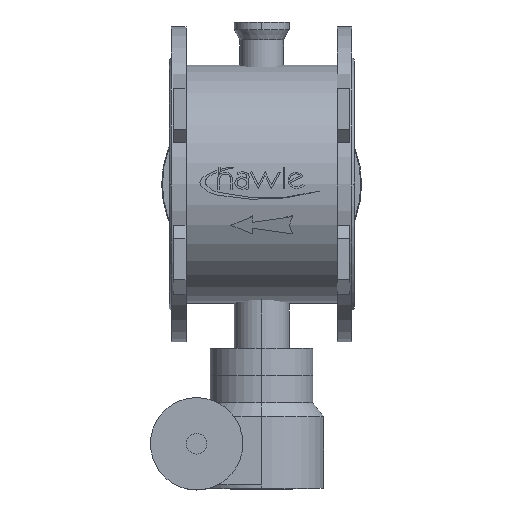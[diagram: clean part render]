
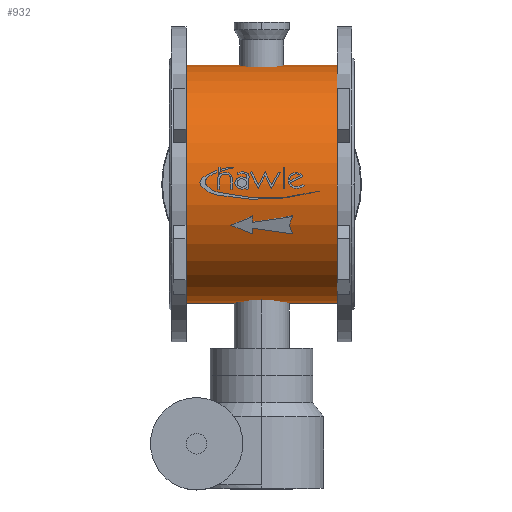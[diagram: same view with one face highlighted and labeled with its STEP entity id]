
A CAD part, top view. The second image highlights one B-rep face of the part: STEP entity #932.
In plain terms, the highlighted cylindrical face has radius 174 mm (diameter 348 mm), a partial arc.
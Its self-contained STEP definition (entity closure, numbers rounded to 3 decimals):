
#932=ADVANCED_FACE('',(#1972),#1973,.T.);
#1972=FACE_OUTER_BOUND('',#3479,.T.);
#1973=CYLINDRICAL_SURFACE('',#3480,174.0);
#3479=EDGE_LOOP('',(#4941,#4942,#4943,#4944));
#3480=AXIS2_PLACEMENT_3D('',#4945,#4946,#4947);
#4941=ORIENTED_EDGE('',*,*,#7961,.T.);
#4942=ORIENTED_EDGE('',*,*,#7962,.T.);
#4943=ORIENTED_EDGE('',*,*,#7963,.T.);
#4944=ORIENTED_EDGE('',*,*,#7964,.T.);
#4945=CARTESIAN_POINT('',(-245.5,0.,0.0));
#4946=DIRECTION('',(1.0,0.,0.0));
#4947=DIRECTION('',(0.,-1.0,0.0));
#7961=EDGE_CURVE('',#9372,#9373,#9374,.T.);
#7962=EDGE_CURVE('',#9373,#9375,#9376,.T.);
#7963=EDGE_CURVE('',#9375,#9377,#9378,.T.);
#7964=EDGE_CURVE('',#9377,#9372,#9379,.T.);
#9372=VERTEX_POINT('',#11385);
#9373=VERTEX_POINT('',#11386);
#9374=LINE('',#11387,#11388);
#9375=VERTEX_POINT('',#11389);
#9376=CIRCLE('',#11390,174.0);
#9377=VERTEX_POINT('',#11391);
#9378=LINE('',#11392,#11393);
#9379=CIRCLE('',#11394,174.0);
#11385=CARTESIAN_POINT('',(-245.5,-174.0,0.0));
#11386=CARTESIAN_POINT('',(-24.5,-174.0,0.0));
#11387=CARTESIAN_POINT('',(-245.5,-174.0,0.));
#11388=VECTOR('',#13465,1.0);
#11389=CARTESIAN_POINT('',(-24.5,174.0,0.));
#11390=AXIS2_PLACEMENT_3D('',#13466,#13467,#13468);
#11391=CARTESIAN_POINT('',(-245.5,174.0,0.));
#11392=CARTESIAN_POINT('',(-245.5,174.0,0.));
#11393=VECTOR('',#13469,1.0);
#11394=AXIS2_PLACEMENT_3D('',#13470,#13471,#13472);
#13465=DIRECTION('',(1.0,0.,0.0));
#13466=CARTESIAN_POINT('',(-24.5,0.,0.0));
#13467=DIRECTION('',(-1.0,0.,0.0));
#13468=DIRECTION('',(0.,-1.0,0.0));
#13469=DIRECTION('',(-1.0,0.,-0.0));
#13470=CARTESIAN_POINT('',(-245.5,0.,0.0));
#13471=DIRECTION('',(1.0,0.,0.0));
#13472=DIRECTION('',(0.,-1.0,0.0));
